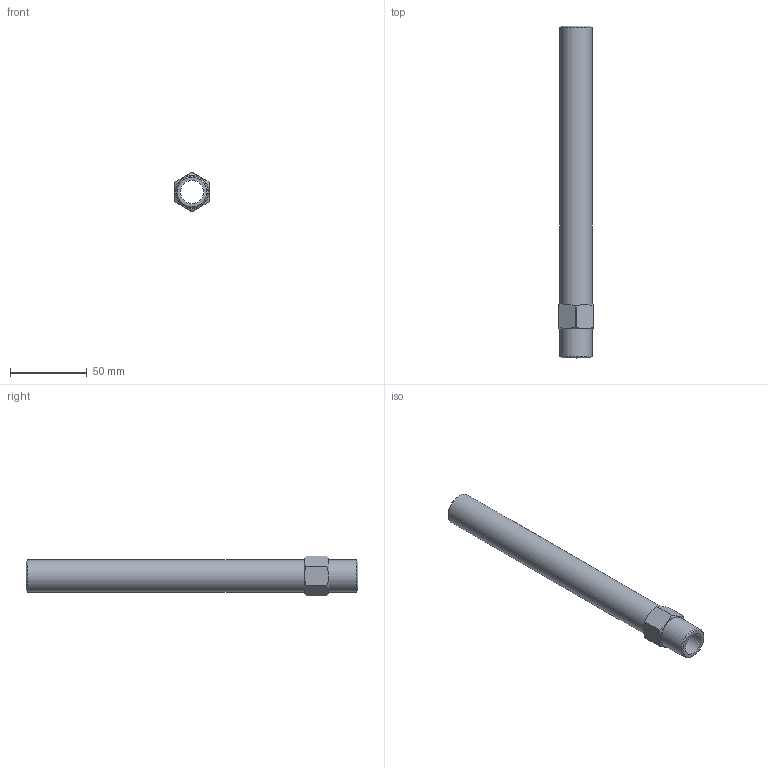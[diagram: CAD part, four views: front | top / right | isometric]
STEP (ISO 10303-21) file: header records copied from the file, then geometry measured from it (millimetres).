
FILE_DESCRIPTION(/* description */ (''),/* implementation_level */ '2;1');
FILE_NAME(/* name */ 'C:/Users/drich/Desktop/APN12-8-1_2 v1.step',/* time_stamp */ '2019-12-27T17:42:02-06:00',/* author */ (''),/* organization */ (''),/* preprocessor_version */ 'ST-DEVELOPER v18',/* originating_system */ 'Autodesk Translation Framework v8.12.0.6',/* authorisation */ '');
FILE_SCHEMA (('AUTOMOTIVE_DESIGN { 1 0 10303 214 3 1 1 }'));
Length unit declared in the file: inch
Products named in the file (1): APN12-8-1_2
Bounding box: 22.23 x 215.9 x 25.65 mm (x, y, z)
Volume: 36422.8 mm3; surface area: 24879.3 mm2
Topology: 1 solids, 1 shells, 23 faces, 59 edges, 40 vertices
Faces by surface type: plane 10, cylinder 9, cone 4
Full cylindrical faces by diameter (mm): 15.037 x1, 20.813 x2
Entity records: 751 total; most frequent: CARTESIAN_POINT 147, DIRECTION 123, ORIENTED_EDGE 118, EDGE_CURVE 59, AXIS2_PLACEMENT_3D 52, VERTEX_POINT 40, CIRCLE 28, EDGE_LOOP 27
